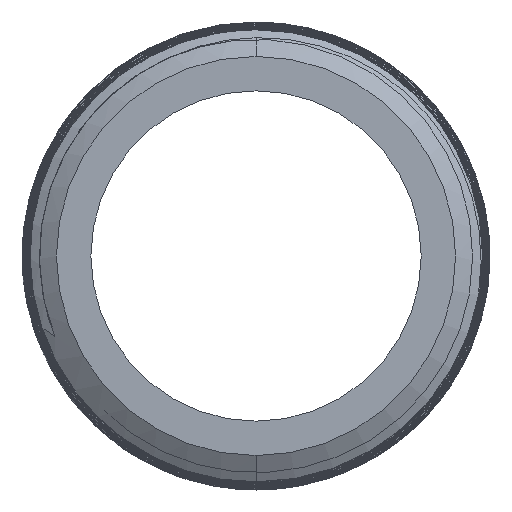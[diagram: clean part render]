
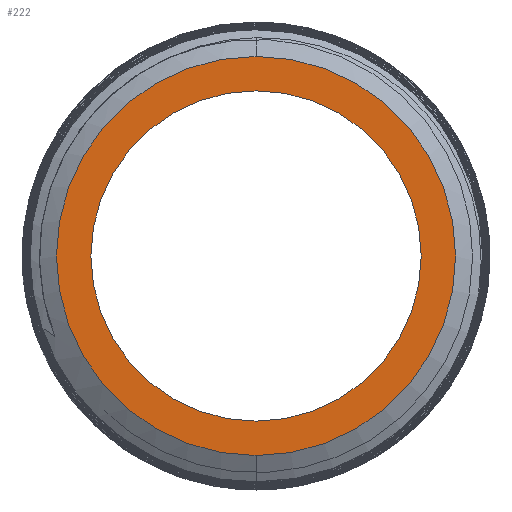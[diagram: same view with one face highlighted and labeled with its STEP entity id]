
A CAD part, left-side view. The second image highlights one B-rep face of the part: STEP entity #222.
In plain terms, the highlighted planar face has unit normal (-1, 0, 0).
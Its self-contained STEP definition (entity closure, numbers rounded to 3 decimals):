
#121 = VERTEX_POINT ( 'NONE', #2859 ) ;
#222 = ADVANCED_FACE ( 'NONE', ( #4613, #5552 ), #1949, .F. ) ;
#504 = VERTEX_POINT ( 'NONE', #3837 ) ;
#746 = VERTEX_POINT ( 'NONE', #3802 ) ;
#1140 = EDGE_CURVE ( 'NONE', #504, #746, #2970, .T. ) ;
#1167 = CIRCLE ( 'NONE', #2051, 3.6 ) ;
#1762 = DIRECTION ( 'NONE',  ( -1., 0., 0. ) ) ;
#1810 = DIRECTION ( 'NONE',  ( 0., 0., 1. ) ) ;
#1949 = PLANE ( 'NONE',  #5776 ) ;
#2001 = EDGE_CURVE ( 'NONE', #121, #3053, #2077, .T. ) ;
#2051 = AXIS2_PLACEMENT_3D ( 'NONE', #5563, #6775, #3013 ) ;
#2077 = CIRCLE ( 'NONE', #3977, 4.35 ) ;
#2416 = EDGE_LOOP ( 'NONE', ( #2830, #5877 ) ) ;
#2579 = CIRCLE ( 'NONE', #5039, 4.35 ) ;
#2830 = ORIENTED_EDGE ( 'NONE', *, *, #5713, .T. ) ;
#2859 = CARTESIAN_POINT ( 'NONE',  ( -60., 0., 4.35 ) ) ;
#2970 = CIRCLE ( 'NONE', #3525, 3.6 ) ;
#3013 = DIRECTION ( 'NONE',  ( 0., 0., 1. ) ) ;
#3053 = VERTEX_POINT ( 'NONE', #6334 ) ;
#3324 = DIRECTION ( 'NONE',  ( -1., 0., 0. ) ) ;
#3359 = DIRECTION ( 'NONE',  ( 0., 0., 1. ) ) ;
#3490 = DIRECTION ( 'NONE',  ( 0., 0., -1. ) ) ;
#3525 = AXIS2_PLACEMENT_3D ( 'NONE', #4416, #1762, #5569 ) ;
#3802 = CARTESIAN_POINT ( 'NONE',  ( -60., 0., -3.6 ) ) ;
#3837 = CARTESIAN_POINT ( 'NONE',  ( -60., 0., 3.6 ) ) ;
#3977 = AXIS2_PLACEMENT_3D ( 'NONE', #6505, #3324, #3359 ) ;
#4307 = EDGE_CURVE ( 'NONE', #746, #504, #1167, .T. ) ;
#4416 = CARTESIAN_POINT ( 'NONE',  ( -60., 0., 0. ) ) ;
#4468 = CARTESIAN_POINT ( 'NONE',  ( -60., 0., 0. ) ) ;
#4474 = DIRECTION ( 'NONE',  ( 1., 0., 0. ) ) ;
#4613 = FACE_BOUND ( 'NONE', #4972, .T. ) ;
#4972 = EDGE_LOOP ( 'NONE', ( #5662, #6879 ) ) ;
#5002 = CARTESIAN_POINT ( 'NONE',  ( -60., 3.6, 0. ) ) ;
#5039 = AXIS2_PLACEMENT_3D ( 'NONE', #4468, #6594, #1810 ) ;
#5552 = FACE_OUTER_BOUND ( 'NONE', #2416, .T. ) ;
#5563 = CARTESIAN_POINT ( 'NONE',  ( -60., 0., 0. ) ) ;
#5569 = DIRECTION ( 'NONE',  ( 0., 0., 1. ) ) ;
#5662 = ORIENTED_EDGE ( 'NONE', *, *, #1140, .F. ) ;
#5713 = EDGE_CURVE ( 'NONE', #3053, #121, #2579, .T. ) ;
#5776 = AXIS2_PLACEMENT_3D ( 'NONE', #5002, #4474, #3490 ) ;
#5877 = ORIENTED_EDGE ( 'NONE', *, *, #2001, .T. ) ;
#6334 = CARTESIAN_POINT ( 'NONE',  ( -60., 0., -4.35 ) ) ;
#6505 = CARTESIAN_POINT ( 'NONE',  ( -60., 0., 0. ) ) ;
#6594 = DIRECTION ( 'NONE',  ( -1., 0., 0. ) ) ;
#6775 = DIRECTION ( 'NONE',  ( -1., 0., 0. ) ) ;
#6879 = ORIENTED_EDGE ( 'NONE', *, *, #4307, .F. ) ;
